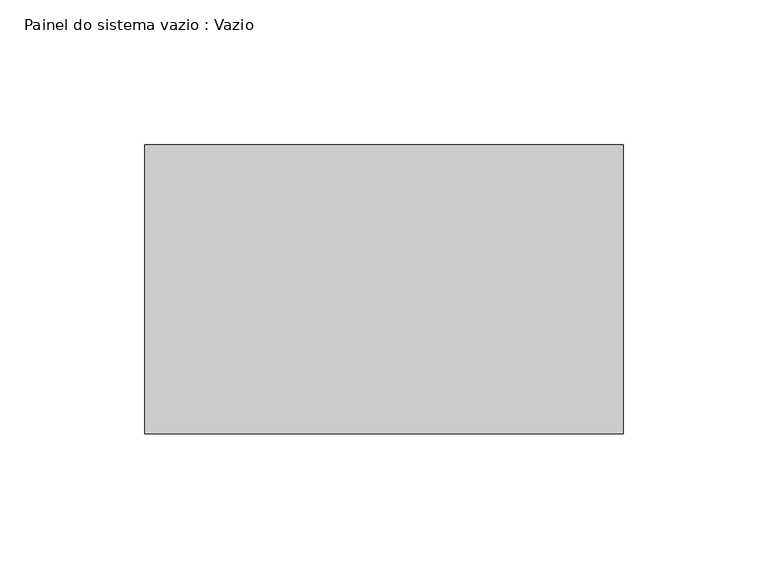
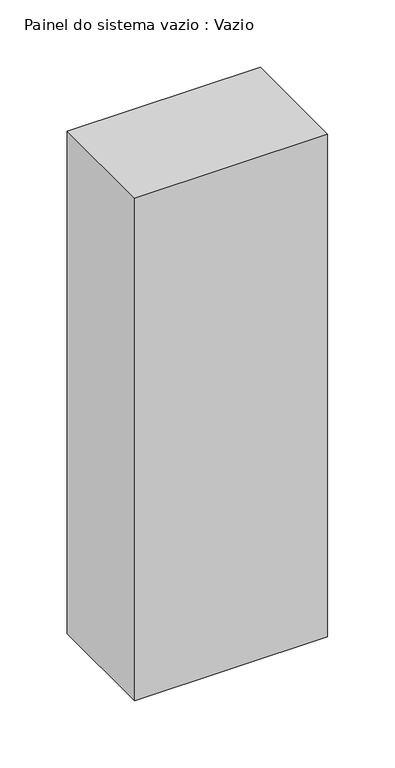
"""IFC4 building model written with IfcOpenShell, lengths in millimetres: plate geometry, Painel do sistema vazio : Vazio."""

from ifc_helpers import new_model, si_unit, origin, origin_with_axes, place, context, project, spatial, polyline, outline, extrude, source, transform, mapped, element, save


def painel_do_sistema_vazio_vazio_aac5a565(model_context):
    return source(origin(), model_context, "Body", "SweptSolid", [
        extrude(outline(polyline([(82.7388429, -50.0), (-82.7388429, -50.0), (-82.7388429, 50.0), (82.7388429, 50.0), (82.7388429, -50.0)])), origin_with_axes(), (0.0, 0.0, 1.0), 455.0),
    ])


if __name__ == "__main__":
    model = new_model("IFC4")
    model_context = context("Model", 3, world=origin())
    ifc_project = project(units=[si_unit("LENGTHUNIT", "METRE", prefix="MILLI")], contexts=[model_context])
    site = spatial("IfcSite", under=ifc_project)
    building = spatial("IfcBuilding", under=site)
    placement = place(None, origin())
    painel_do_sistema_vazio_vazio_shape = painel_do_sistema_vazio_vazio_aac5a565(model_context)
    element("IfcPlate", 1, ObjectType="Painel do sistema vazio : Vazio", at=placement, inside=building, context=model_context, shape_type="MappedRepresentation", body=[
        mapped(painel_do_sistema_vazio_vazio_shape, transform((0.0, 0.0, 0.0), x_axis=(1.0, 0.0, 0.0), y_axis=(0.0, 1.0, 0.0), z_axis=(0.0, 0.0, 1.0))),
    ])
    save(model, "model.ifc")
